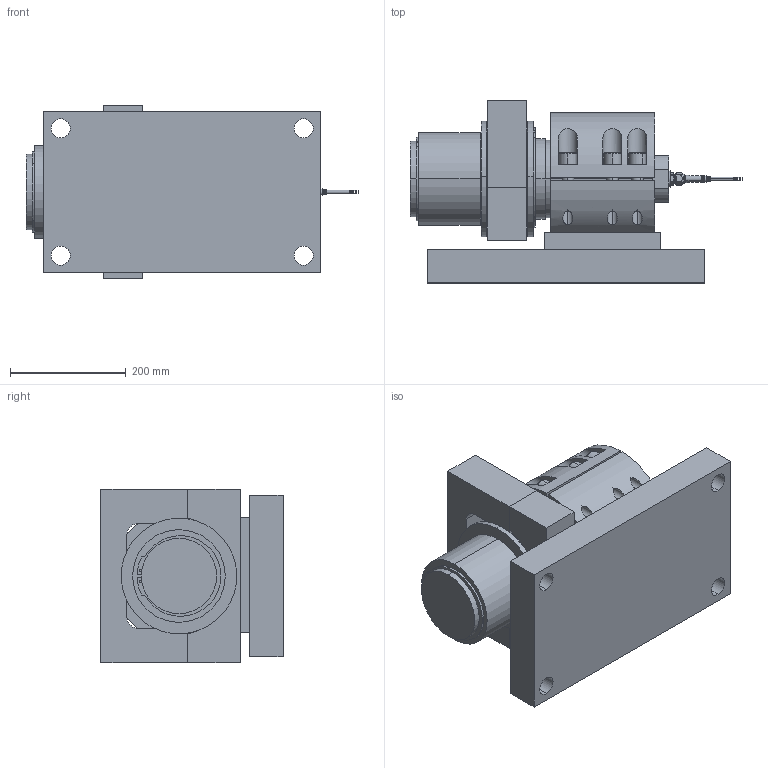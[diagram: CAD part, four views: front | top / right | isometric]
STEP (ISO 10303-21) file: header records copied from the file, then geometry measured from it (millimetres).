
FILE_DESCRIPTION (( 'STEP AP214' ), '1' );
FILE_NAME ('KIS-1 500 kN Module.STEP', '2021-07-01T06:34:53', ( '' ), ( '' ), 'SwSTEP 2.0', 'SolidWorks 2021', '' );
FILE_SCHEMA (( 'AUTOMOTIVE_DESIGN' ));
Length unit declared in the file: millimetre
Products named in the file (13): KIS-1 500 kN Module; 5149394r3; Standardkabel 4-Cond PVC; Wiberger-sga_150; 4084483r1; 400450r1; Pg9 - 1009.52 6_2_14; Wiberger-din912_m20x50; M26x1.5 - Pg9 - 6369829; 4079542r1; SGA_130; 5178693r2; 1123656
Assembly tree (14 placements, depth 2):
  KIS-1 500 kN Module
    400450r1
    1123656
    4079542r1
    4084483r1
    5149394r3
    5178693r2
    M26x1.5 - Pg9 - 6369829
    Pg9 - 1009.52 6_2_14
    Standardkabel 4-Cond PVC
    SGA_130
    Wiberger-sga_150
    Wiberger-din912_m20x50  x3
Bounding box: 574 x 315 x 300 mm (x, y, z)
Volume: 23696176.9 mm3; surface area: 1418605.4 mm2
Topology: 14 solids, 17 shells, 464 faces, 1053 edges, 655 vertices
Faces by surface type: cylinder 186, plane 163, cone 73, bspline 22, torus 20
Entity records: 17715 total; most frequent: CARTESIAN_POINT 6936, DIRECTION 2069, ORIENTED_EDGE 1886, EDGE_CURVE 943, AXIS2_PLACEMENT_3D 853, VERTEX_POINT 605, EDGE_LOOP 490, CIRCLE 448
